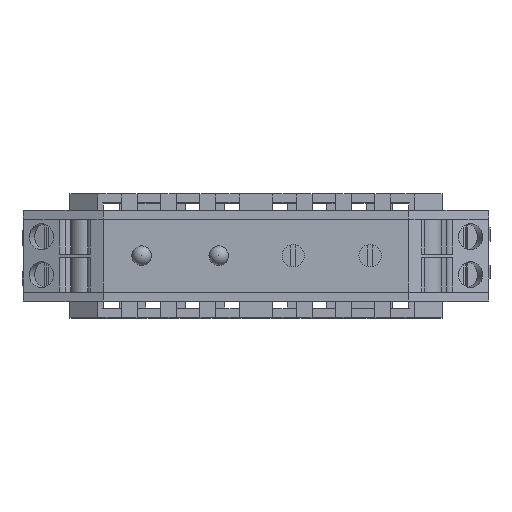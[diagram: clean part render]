
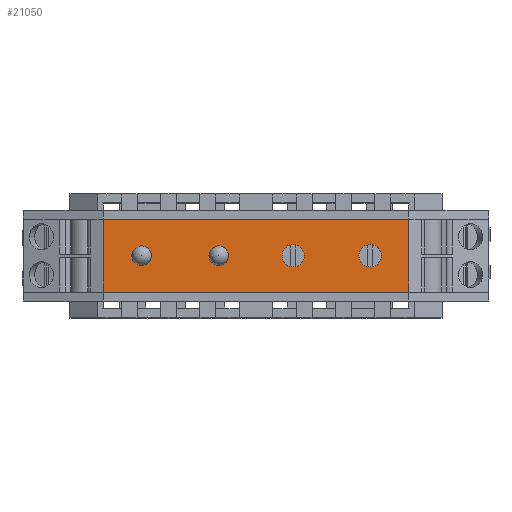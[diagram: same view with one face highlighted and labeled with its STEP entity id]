
A CAD part, top view. The second image highlights one B-rep face of the part: STEP entity #21050.
In plain terms, the highlighted planar face has unit normal (0, 0, 1).
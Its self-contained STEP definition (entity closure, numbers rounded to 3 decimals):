
#345=CIRCLE('',#21889,1.5);
#347=CIRCLE('',#21892,1.5);
#1501=FACE_BOUND('',#3587,.T.);
#1502=FACE_BOUND('',#3588,.T.);
#2514=FACE_OUTER_BOUND('',#3586,.T.);
#3586=EDGE_LOOP('',(#19332,#19333,#19334,#19335));
#3587=EDGE_LOOP('',(#19336));
#3588=EDGE_LOOP('',(#19337));
#5031=LINE('',#45841,#7241);
#5446=LINE('',#48649,#7656);
#5649=LINE('',#49956,#7859);
#5805=LINE('',#50902,#8015);
#7241=VECTOR('',#25144,10.);
#7656=VECTOR('',#25839,10.);
#7859=VECTOR('',#26298,10.);
#8015=VECTOR('',#26690,10.);
#9337=VERTEX_POINT('',#45626);
#9339=VERTEX_POINT('',#45632);
#9390=VERTEX_POINT('',#45838);
#9391=VERTEX_POINT('',#45840);
#9844=VERTEX_POINT('',#48647);
#10020=VERTEX_POINT('',#49954);
#12077=EDGE_CURVE('',#9337,#9337,#345,.T.);
#12080=EDGE_CURVE('',#9339,#9339,#347,.T.);
#12136=EDGE_CURVE('',#9390,#9391,#5031,.T.);
#12763=EDGE_CURVE('',#9844,#9390,#5446,.T.);
#13028=EDGE_CURVE('',#9844,#10020,#5649,.T.);
#13209=EDGE_CURVE('',#10020,#9391,#5805,.T.);
#19332=ORIENTED_EDGE('',*,*,#13209,.T.);
#19333=ORIENTED_EDGE('',*,*,#12136,.F.);
#19334=ORIENTED_EDGE('',*,*,#12763,.F.);
#19335=ORIENTED_EDGE('',*,*,#13028,.T.);
#19336=ORIENTED_EDGE('',*,*,#12077,.T.);
#19337=ORIENTED_EDGE('',*,*,#12080,.T.);
#20040=PLANE('',#22290);
#21050=ADVANCED_FACE('',(#2514,#1501,#1502),#20040,.T.);
#21889=AXIS2_PLACEMENT_3D('',#45627,#25070,#25071);
#21892=AXIS2_PLACEMENT_3D('',#45633,#25077,#25078);
#22290=AXIS2_PLACEMENT_3D('',#50905,#26694,#26695);
#25070=DIRECTION('center_axis',(0.,0.,-1.));
#25071=DIRECTION('ref_axis',(1.,0.,0.));
#25077=DIRECTION('center_axis',(0.,0.,-1.));
#25078=DIRECTION('ref_axis',(1.,0.,0.));
#25144=DIRECTION('',(1.,0.,0.));
#25839=DIRECTION('',(0.,1.,0.));
#26298=DIRECTION('',(1.,0.,0.));
#26690=DIRECTION('',(0.,1.,0.));
#26694=DIRECTION('center_axis',(0.,0.,1.));
#26695=DIRECTION('ref_axis',(1.,0.,0.));
#45626=CARTESIAN_POINT('',(13.839,0.,64.4));
#45627=CARTESIAN_POINT('Origin',(15.339,0.,
64.4));
#45632=CARTESIAN_POINT('',(3.5,0.,64.4));
#45633=CARTESIAN_POINT('Origin',(5.,0.,64.4));
#45838=CARTESIAN_POINT('',(-20.5,4.9,64.4));
#45840=CARTESIAN_POINT('',(20.5,4.9,64.4));
#45841=CARTESIAN_POINT('',(20.5,4.9,64.4));
#48647=CARTESIAN_POINT('',(-20.5,-4.9,64.4));
#48649=CARTESIAN_POINT('',(-20.5,0.,64.4));
#49954=CARTESIAN_POINT('',(20.5,-4.9,64.4));
#49956=CARTESIAN_POINT('',(20.5,-4.9,64.4));
#50902=CARTESIAN_POINT('',(20.5,0.,64.4));
#50905=CARTESIAN_POINT('Origin',(-20.5,0.,64.4));
